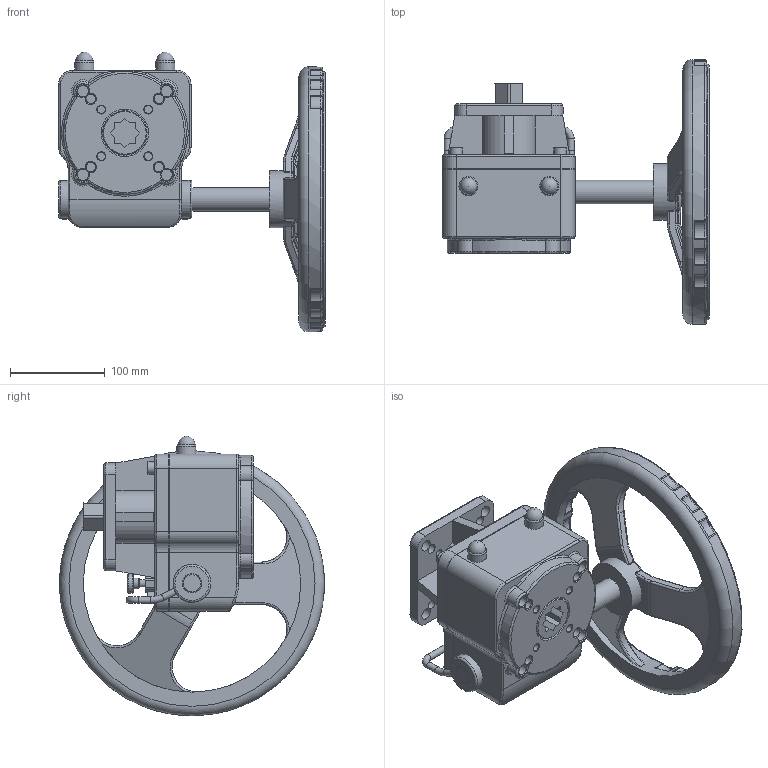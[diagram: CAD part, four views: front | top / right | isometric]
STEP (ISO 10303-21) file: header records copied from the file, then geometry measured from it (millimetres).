
FILE_DESCRIPTION(('STEP AP242'), '1');
FILE_NAME('MON3-700-T38-ISO 唒籦鍣 劌摠歑 DN.ru', '2026-04-21T21:16:47', ('R2D2'), (''), 'C3D Converter', 'C3D Toolkit', '');
FILE_SCHEMA(('AP242_MANAGED_MODEL_BASED_3D_ENGINEERING_MIM_LF { 1 0 10303 442 1 1 4 }'));
Length unit declared in the file: millimetre
Products named in the file (1): MON3-700-T38-ISO
Bounding box: 282 x 280 x 295.53 mm (x, y, z)
Volume: 3243131.3 mm3; surface area: 339439.1 mm2
Topology: 2 solids, 2 shells, 1026 faces, 2585 edges, 1623 vertices
Faces by surface type: plane 433, cylinder 242, bspline 153, torus 130, sphere 40, cone 28
Full cylindrical faces by diameter (mm): 7 x5, 7.593 x1, 8 x4, 8.5 x8, 9 x8, 10 x4, 10.5 x4, 11.216 x1, 12 x4, 12.5 x4, 13 x3, 19.5 x1, 20 x3, 21.162 x1, 25 x1, 30 x1, 40 x2, 42 x1, 45 x1, 47 x1, 50 x1, 60 x1, 230 x1, 240 x1, 270 x1, 280 x1
Entity records: 64825 total; most frequent: CARTESIAN_POINT 33066, ORIENTED_EDGE 4946, DIRECTION 4526, EDGE_CURVE 2473, AXIS2_PLACEMENT_3D 1650, VERTEX_POINT 1615, LINE 1226, VECTOR 1226
